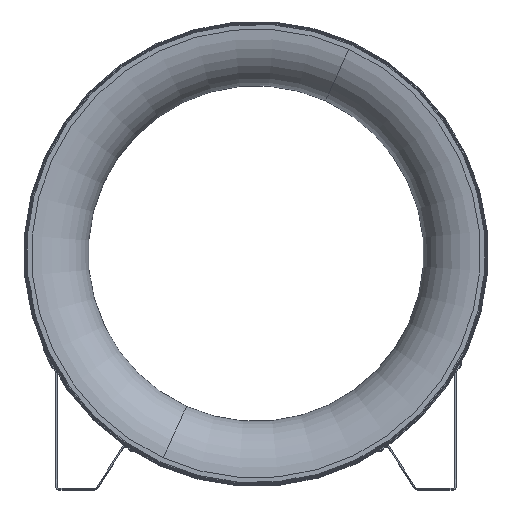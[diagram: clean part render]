
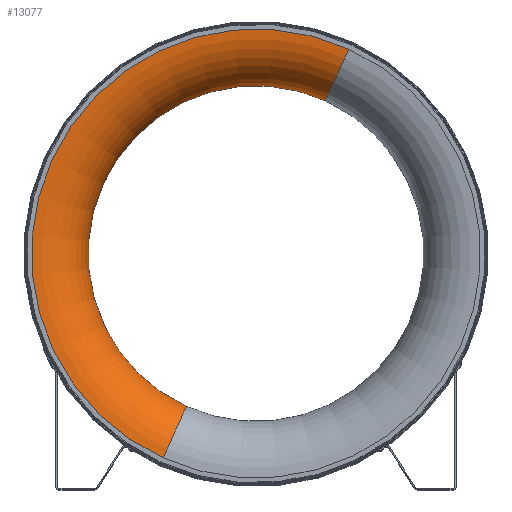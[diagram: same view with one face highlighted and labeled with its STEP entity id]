
A CAD part, top view. The second image highlights one B-rep face of the part: STEP entity #13077.
In plain terms, the highlighted toroidal (fillet/blend) face has major radius 346.5 mm and minor radius 87.5 mm.
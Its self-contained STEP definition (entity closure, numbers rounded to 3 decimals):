
#291 = DIRECTION ( 'NONE',  ( 0.91, -0.414, 0. ) ) ;
#492 = EDGE_CURVE ( 'NONE', #4993, #10525, #7298, .T. ) ;
#521 = AXIS2_PLACEMENT_3D ( 'NONE', #13098, #291, #6515 ) ;
#752 = DIRECTION ( 'NONE',  ( 0., 0., 1. ) ) ;
#1749 = EDGE_CURVE ( 'NONE', #10525, #9557, #3874, .T. ) ;
#3244 = CARTESIAN_POINT ( 'NONE',  ( -107.241, 128.245, 258.254 ) ) ;
#3279 = EDGE_LOOP ( 'NONE', ( #15093, #11923, #16388, #3341 ) ) ;
#3341 = ORIENTED_EDGE ( 'NONE', *, *, #3570, .T. ) ;
#3442 = CARTESIAN_POINT ( 'NONE',  ( 143.471, 679.402, 345.754 ) ) ;
#3570 = EDGE_CURVE ( 'NONE', #9557, #12492, #13147, .T. ) ;
#3595 = CARTESIAN_POINT ( 'NONE',  ( 0., 364., 258.254 ) ) ;
#3874 = CIRCLE ( 'NONE', #12311, 87.5 ) ;
#3972 = FACE_OUTER_BOUND ( 'NONE', #3279, .T. ) ;
#4325 = EDGE_CURVE ( 'NONE', #4993, #12492, #8798, .T. ) ;
#4993 = VERTEX_POINT ( 'NONE', #3244 ) ;
#5079 = CARTESIAN_POINT ( 'NONE',  ( 0., 364., 258.254 ) ) ;
#6384 = DIRECTION ( 'NONE',  ( 0.414, 0.91, 0. ) ) ;
#6415 = DIRECTION ( 'NONE',  ( 0.414, 0.91, 0. ) ) ;
#6451 = AXIS2_PLACEMENT_3D ( 'NONE', #3595, #17100, #6384 ) ;
#6515 = DIRECTION ( 'NONE',  ( 0.414, 0.91, 0. ) ) ;
#6670 = DIRECTION ( 'NONE',  ( -0.414, -0.91, 0. ) ) ;
#7298 = CIRCLE ( 'NONE', #6451, 259. ) ;
#7305 = DIRECTION ( 'NONE',  ( -0.414, -0.91, 0. ) ) ;
#7422 = DIRECTION ( 'NONE',  ( -0.91, 0.414, 0. ) ) ;
#8798 = CIRCLE ( 'NONE', #521, 87.5 ) ;
#9557 = VERTEX_POINT ( 'NONE', #3442 ) ;
#10525 = VERTEX_POINT ( 'NONE', #11345 ) ;
#11345 = CARTESIAN_POINT ( 'NONE',  ( 107.241, 599.755, 258.254 ) ) ;
#11923 = ORIENTED_EDGE ( 'NONE', *, *, #492, .T. ) ;
#12184 = AXIS2_PLACEMENT_3D ( 'NONE', #5079, #14312, #6415 ) ;
#12311 = AXIS2_PLACEMENT_3D ( 'NONE', #16636, #7422, #7305 ) ;
#12387 = CARTESIAN_POINT ( 'NONE',  ( -143.471, 48.598, 345.754 ) ) ;
#12492 = VERTEX_POINT ( 'NONE', #12387 ) ;
#13077 = ADVANCED_FACE ( 'NONE', ( #3972 ), #14075, .T. ) ;
#13098 = CARTESIAN_POINT ( 'NONE',  ( -143.471, 48.598, 258.254 ) ) ;
#13147 = CIRCLE ( 'NONE', #14759, 346.5 ) ;
#14075 = TOROIDAL_SURFACE ( 'NONE', #12184, 346.5, 87.5 ) ;
#14312 = DIRECTION ( 'NONE',  ( 0., 0., -1. ) ) ;
#14759 = AXIS2_PLACEMENT_3D ( 'NONE', #15538, #752, #6670 ) ;
#15093 = ORIENTED_EDGE ( 'NONE', *, *, #4325, .F. ) ;
#15538 = CARTESIAN_POINT ( 'NONE',  ( 0., 364., 345.754 ) ) ;
#16388 = ORIENTED_EDGE ( 'NONE', *, *, #1749, .T. ) ;
#16636 = CARTESIAN_POINT ( 'NONE',  ( 143.471, 679.402, 258.254 ) ) ;
#17100 = DIRECTION ( 'NONE',  ( 0., 0., -1. ) ) ;
